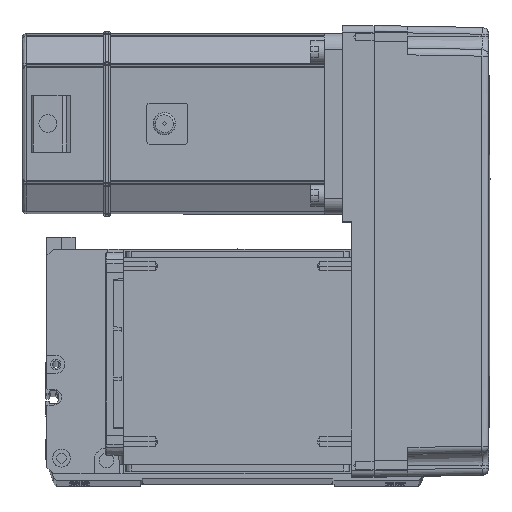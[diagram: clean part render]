
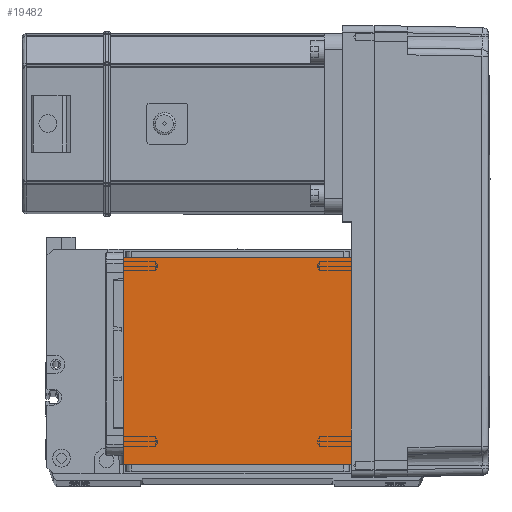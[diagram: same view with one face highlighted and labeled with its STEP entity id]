
A CAD part, top view. The second image highlights one B-rep face of the part: STEP entity #19482.
In plain terms, the highlighted planar face has unit normal (0, 0, 1).
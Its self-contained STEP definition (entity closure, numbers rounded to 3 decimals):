
#352 = EDGE_LOOP ( 'NONE', ( #25116, #23278, #57902, #20901 ) ) ;
#987 = VERTEX_POINT ( 'NONE', #3370 ) ;
#3370 = CARTESIAN_POINT ( 'NONE',  ( -50.5, 20., 115. ) ) ;
#3943 = CARTESIAN_POINT ( 'NONE',  ( -70.004, 111.5, 115. ) ) ;
#4516 = CARTESIAN_POINT ( 'NONE',  ( 50.5, 111.5, 115. ) ) ;
#5316 = AXIS2_PLACEMENT_3D ( 'NONE', #6661, #38863, #11248 ) ;
#6661 = CARTESIAN_POINT ( 'NONE',  ( 0., 0., 115. ) ) ;
#6724 = EDGE_CURVE ( 'NONE', #34135, #987, #32155, .T. ) ;
#8522 = VERTEX_POINT ( 'NONE', #29887 ) ;
#11248 = DIRECTION ( 'NONE',  ( 1., 0., 0. ) ) ;
#13996 = LINE ( 'NONE', #37940, #54271 ) ;
#14893 = EDGE_CURVE ( 'NONE', #8522, #987, #26105, .T. ) ;
#17281 = CARTESIAN_POINT ( 'NONE',  ( -50.5, 122., 115. ) ) ;
#19462 = DIRECTION ( 'NONE',  ( -1., 0., 0. ) ) ;
#19482 = ADVANCED_FACE ( 'NONE', ( #26070 ), #39641, .T. ) ;
#19827 = VECTOR ( 'NONE', #49422, 1000. ) ;
#20901 = ORIENTED_EDGE ( 'NONE', *, *, #34398, .T. ) ;
#23278 = ORIENTED_EDGE ( 'NONE', *, *, #6724, .T. ) ;
#24694 = CARTESIAN_POINT ( 'NONE',  ( -70.004, 20., 115. ) ) ;
#25116 = ORIENTED_EDGE ( 'NONE', *, *, #32208, .F. ) ;
#26070 = FACE_OUTER_BOUND ( 'NONE', #352, .T. ) ;
#26105 = LINE ( 'NONE', #24694, #48349 ) ;
#29887 = CARTESIAN_POINT ( 'NONE',  ( 50.5, 20., 115. ) ) ;
#32155 = LINE ( 'NONE', #17281, #19827 ) ;
#32208 = EDGE_CURVE ( 'NONE', #34135, #38782, #43045, .T. ) ;
#34135 = VERTEX_POINT ( 'NONE', #44563 ) ;
#34398 = EDGE_CURVE ( 'NONE', #8522, #38782, #13996, .T. ) ;
#36167 = DIRECTION ( 'NONE',  ( 1., 0., 0. ) ) ;
#37940 = CARTESIAN_POINT ( 'NONE',  ( 50.5, 122., 115. ) ) ;
#38782 = VERTEX_POINT ( 'NONE', #4516 ) ;
#38863 = DIRECTION ( 'NONE',  ( 0., 0., 1. ) ) ;
#39641 = PLANE ( 'NONE',  #5316 ) ;
#43045 = LINE ( 'NONE', #3943, #50913 ) ;
#44563 = CARTESIAN_POINT ( 'NONE',  ( -50.5, 111.5, 115. ) ) ;
#48349 = VECTOR ( 'NONE', #19462, 1000. ) ;
#49422 = DIRECTION ( 'NONE',  ( 0., -1., 0. ) ) ;
#50913 = VECTOR ( 'NONE', #36167, 1000. ) ;
#51330 = DIRECTION ( 'NONE',  ( 0., 1., 0. ) ) ;
#54271 = VECTOR ( 'NONE', #51330, 1000. ) ;
#57902 = ORIENTED_EDGE ( 'NONE', *, *, #14893, .F. ) ;
